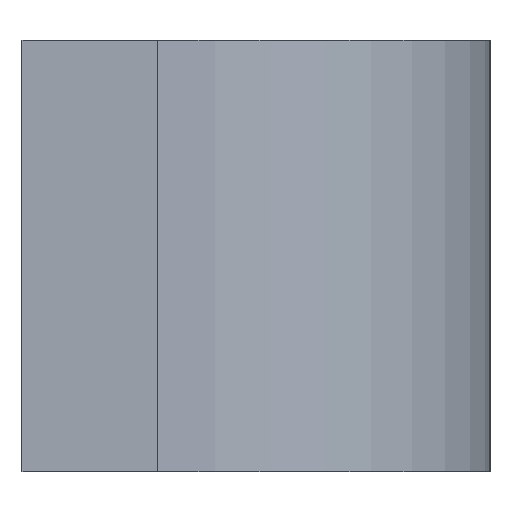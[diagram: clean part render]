
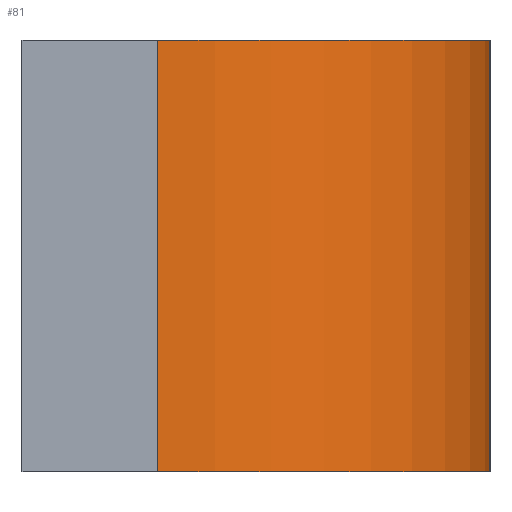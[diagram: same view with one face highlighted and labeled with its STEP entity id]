
A CAD part, left-side view. The second image highlights one B-rep face of the part: STEP entity #81.
In plain terms, the highlighted cylindrical face has radius 27 mm (diameter 54 mm), a partial arc.
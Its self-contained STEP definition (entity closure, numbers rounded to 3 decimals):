
#81 = ADVANCED_FACE( '', ( #108 ), #109, .T. );
#108 = FACE_OUTER_BOUND( '', #150, .T. );
#109 = CYLINDRICAL_SURFACE( '', #151, 27. );
#150 = EDGE_LOOP( '', ( #218, #219, #220, #221 ) );
#151 = AXIS2_PLACEMENT_3D( '', #222, #223, #224 );
#218 = ORIENTED_EDGE( '', *, *, #348, .T. );
#219 = ORIENTED_EDGE( '', *, *, #349, .F. );
#220 = ORIENTED_EDGE( '', *, *, #350, .F. );
#221 = ORIENTED_EDGE( '', *, *, #351, .T. );
#222 = CARTESIAN_POINT( '', ( 23.5, -11., 17.5 ) );
#223 = DIRECTION( '', ( 0., 0., 1. ) );
#224 = DIRECTION( '', ( -1., 0., 0. ) );
#348 = EDGE_CURVE( '', #404, #405, #406, .T. );
#349 = EDGE_CURVE( '', #407, #405, #408, .T. );
#350 = EDGE_CURVE( '', #409, #407, #410, .T. );
#351 = EDGE_CURVE( '', #409, #404, #411, .T. );
#404 = VERTEX_POINT( '', #488 );
#405 = VERTEX_POINT( '', #489 );
#406 = CIRCLE( '', #490, 27. );
#407 = VERTEX_POINT( '', #491 );
#408 = LINE( '', #492, #493 );
#409 = VERTEX_POINT( '', #494 );
#410 = CIRCLE( '', #495, 27. );
#411 = LINE( '', #496, #497 );
#488 = CARTESIAN_POINT( '', ( -3.5, -11., -17.5 ) );
#489 = CARTESIAN_POINT( '', ( 23.5, -38., -17.5 ) );
#490 = AXIS2_PLACEMENT_3D( '', #604, #605, #606 );
#491 = CARTESIAN_POINT( '', ( 23.5, -38., 17.5 ) );
#492 = CARTESIAN_POINT( '', ( 23.5, -38., 17.5 ) );
#493 = VECTOR( '', #607, 1. );
#494 = CARTESIAN_POINT( '', ( -3.5, -11., 17.5 ) );
#495 = AXIS2_PLACEMENT_3D( '', #608, #609, #610 );
#496 = CARTESIAN_POINT( '', ( -3.5, -11., 17.5 ) );
#497 = VECTOR( '', #611, 1. );
#604 = CARTESIAN_POINT( '', ( 23.5, -11., -17.5 ) );
#605 = DIRECTION( '', ( 0., 0., 1. ) );
#606 = DIRECTION( '', ( -1., 0., 0. ) );
#607 = DIRECTION( '', ( 0., 0., -1. ) );
#608 = CARTESIAN_POINT( '', ( 23.5, -11., 17.5 ) );
#609 = DIRECTION( '', ( 0., 0., 1. ) );
#610 = DIRECTION( '', ( -1., 0., 0. ) );
#611 = DIRECTION( '', ( 0., 0., -1. ) );
